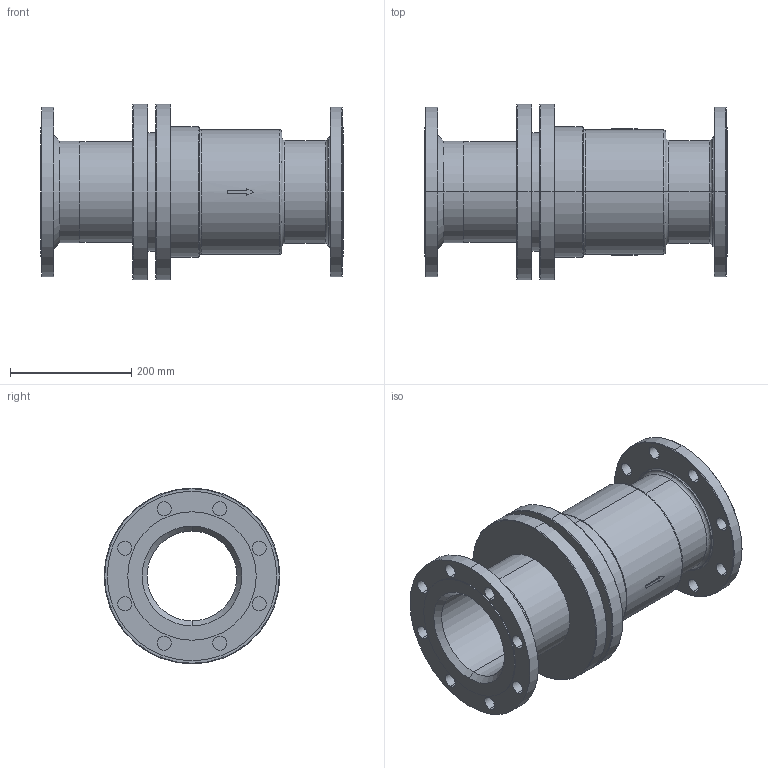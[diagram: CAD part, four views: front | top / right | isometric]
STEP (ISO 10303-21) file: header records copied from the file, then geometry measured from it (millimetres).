
FILE_DESCRIPTION( (''), '2;1');
FILE_NAME ('PC1027.9516.ES-10-100 150A_9694.stp','2025-07-30T13:11:14',(''),(''),'spGate 20.6.3 (****-****-****-****)','','');
FILE_SCHEMA (('AUTOMOTIVE_DESIGN'));
Length unit declared in the file: millimetre
Bounding box: 500 x 290 x 290 mm (x, y, z)
Volume: 8318902.6 mm3; surface area: 879279.6 mm2
Topology: 1 solids, 1 shells, 121 faces, 288 edges, 182 vertices
Faces by surface type: cylinder 60, bspline 32, plane 29
Entity records: 6203 total; most frequent: CARTESIAN_POINT 1175, ORIENTED_EDGE 576, DIRECTION 530, COLOUR_RGB 410, PRESENTATION_STYLE_ASSIGNMENT 410, STYLED_ITEM 410, EDGE_CURVE 288, DRAUGHTING_PRE_DEFINED_CURVE_FONT 288
